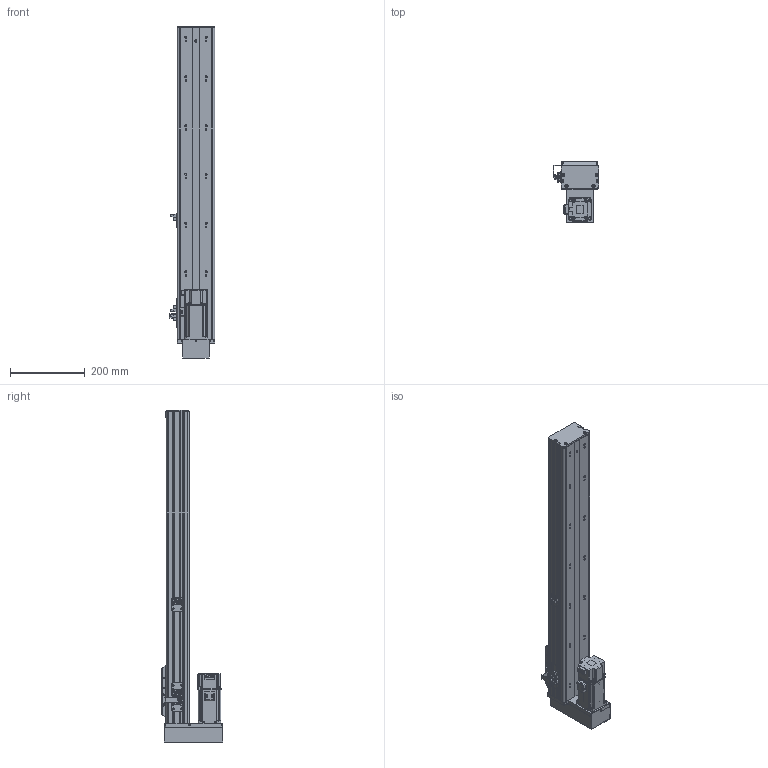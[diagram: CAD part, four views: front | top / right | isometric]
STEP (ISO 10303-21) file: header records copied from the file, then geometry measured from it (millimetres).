
FILE_DESCRIPTION (( 'STEP AP203' ), '1' );
FILE_NAME ('BOSW100-650-1610-1P-DM-M400W-O-S3（方程式2016）.step', '2020-10-10T06:45:33', ( '' ), ( '' ), 'SwSTEP 2.0', 'SolidWorks 2016', '' );
FILE_SCHEMA (( 'CONFIG_CONTROL_DESIGN' ));
Length unit declared in the file: millimetre
Products named in the file (14): BOSW&TW-100-俋离覜茼え; BOS-100-DM鎮湛假蚾啣; 放大器内置U型微型光电传感器PM-L65; BOSW&TW-100-1P-賑雄釱欶; 俋境嫖覜嘐隅啣; S400W(SMA-L040); 新结构AIMSW-100-1P-宽&高轨共用-滑动座上组件; BOSW-100-綴裔啣; BOSW-100-1P-DM-宽轨-钢带-650客户图纸; BOSW&TW-100-詩湍揤沭(陔賦凳); BOS100-DM鎮湛欶; BOSW-100-1P-DM-宽轨-侧板-650客户图纸; BOSW100-650-1610-1P-DM-M400W-O-S3（方程式2016）; BOSW-100-1P-DM-650諦誧芞
Assembly tree (19 placements, depth 2):
  BOSW100-650-1610-1P-DM-M400W-O-S3（方程式2016）
    BOSW-100-1P-DM-650諦誧芞
    BOSW-100-綴裔啣
    新结构AIMSW-100-1P-宽&高轨共用-滑动座上组件
    S400W(SMA-L040)
    BOSW&TW-100-詩湍揤沭(陔賦凳)  x2
    BOSW&TW-100-1P-賑雄釱欶
    BOSW&TW-100-俋离覜茼え
    俋境嫖覜嘐隅啣  x3
    放大器内置U型微型光电传感器PM-L65  x3
    BOSW-100-1P-DM-宽轨-侧板-650客户图纸  x2
    BOSW-100-1P-DM-宽轨-钢带-650客户图纸
    BOS100-DM鎮湛欶
    BOS-100-DM鎮湛假蚾啣
Bounding box: 120.9 x 164 x 886 mm (x, y, z)
Volume: 1997826.2 mm3; surface area: 937428.2 mm2
Topology: 19 solids, 19 shells, 2554 faces, 6740 edges, 4309 vertices
Faces by surface type: plane 1267, cylinder 811, bspline 271, cone 157, torus 36, sphere 12
Entity records: 70263 total; most frequent: CARTESIAN_POINT 20986, ORIENTED_EDGE 10036, DIRECTION 9718, EDGE_CURVE 5018, AXIS2_PLACEMENT_3D 3438, VERTEX_POINT 3211, VECTOR 2842, LINE 2842
